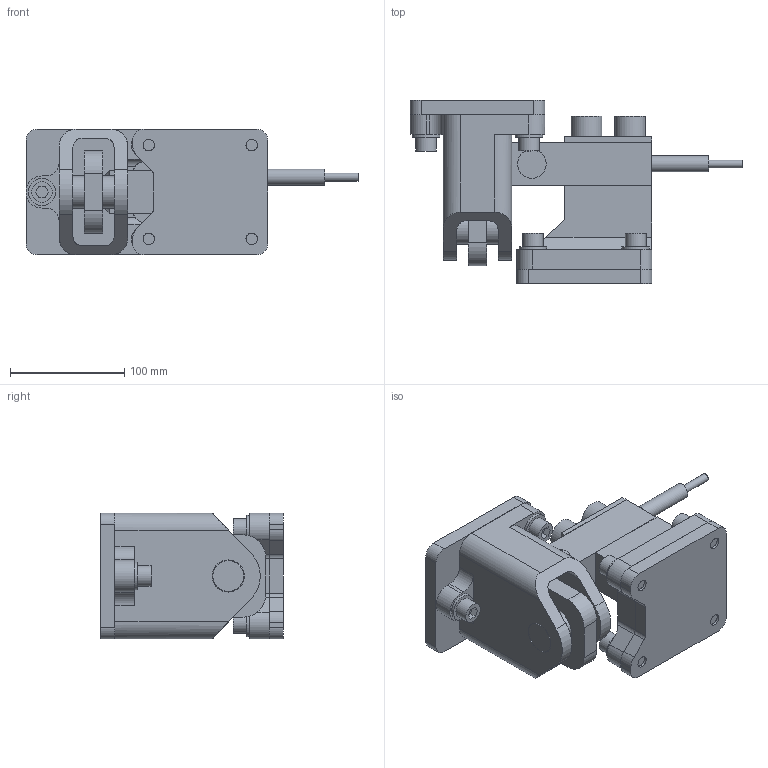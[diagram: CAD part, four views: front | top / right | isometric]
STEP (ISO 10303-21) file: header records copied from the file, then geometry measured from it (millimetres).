
FILE_DESCRIPTION(/* description */ ('STEP AP203'),/* implementation_level */ '2;1');
FILE_NAME(/* name */ 'L-5TSAMEL-5CFSC',/* time_stamp */ '2023-10-19T21:06:25+02:00',/* author */ ('License CC BY-ND 4.0'),/* organization */ ('CADENAS'),/* preprocessor_version */ 'ST-DEVELOPER v19.3',/* originating_system */ 'PARTsolutions',/* authorisation */ ' ');
FILE_SCHEMA (('CONFIG_CONTROL_DESIGN'));
Length unit declared in the file: millimetre
Products named in the file (12): L-5TSAMEL-5CFSC; SAMEL-5CF-5T_LINK; SAMEL-5CF-5T_SHAFT; SAMEL-5CF-5T_SCREW_1; SAMEL-5CF-5T-SC_CUP_PLATE; SAMEL-5T-5CF_BODY_2; SAMEL-5CF-5T_SCREW_2; SAMEL-5CF-5T_MOUNTING_PLATE; L_LX_PROTECTION_CABLE_3_8; L-5T_BODY; SAMEL-5CF-5T-SC_PEDESTAL_PLATE; SAMEL-5T-5CF_BODY_1
Assembly tree (18 placements, depth 2):
  L-5TSAMEL-5CFSC
    SAMEL-5CF-5T_LINK
    SAMEL-5CF-5T_SHAFT
    SAMEL-5CF-5T_SCREW_1  x7
    SAMEL-5CF-5T-SC_CUP_PLATE
    SAMEL-5T-5CF_BODY_2
    SAMEL-5CF-5T_SCREW_2  x2
    SAMEL-5CF-5T_MOUNTING_PLATE
    L_LX_PROTECTION_CABLE_3_8
    L-5T_BODY
    SAMEL-5CF-5T-SC_PEDESTAL_PLATE
    SAMEL-5T-5CF_BODY_1
Bounding box: 290.35 x 160 x 110 mm (x, y, z)
Volume: 1444881.4 mm3; surface area: 291375.6 mm2
Topology: 18 solids, 18 shells, 351 faces, 793 edges, 516 vertices
Faces by surface type: plane 213, cylinder 116, cone 20, torus 2
Full cylindrical faces by diameter (mm): 6.8 x1, 10 x4, 10.106 x7, 12 x7, 12.2 x7, 13 x7, 14 x1, 15.294 x2, 18 x9, 18.5 x2, 19.5 x2, 21.8 x1, 24 x7, 25 x2, 27 x2, 28 x6
Entity records: 7539 total; most frequent: DIRECTION 1242, CARTESIAN_POINT 1195, ORIENTED_EDGE 1030, EDGE_CURVE 515, AXIS2_PLACEMENT_3D 482, VERTEX_POINT 369, FACE_BOUND 354, EDGE_LOOP 352
